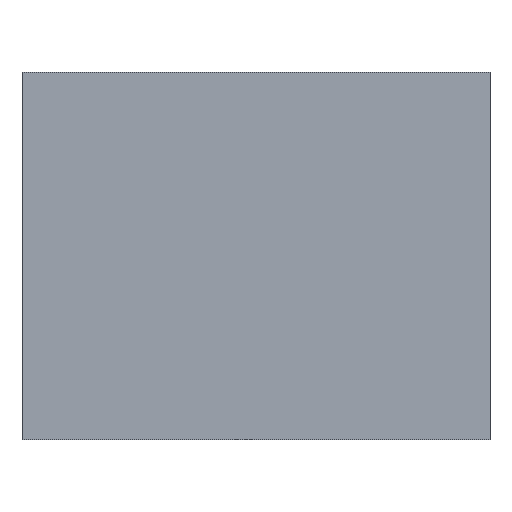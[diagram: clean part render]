
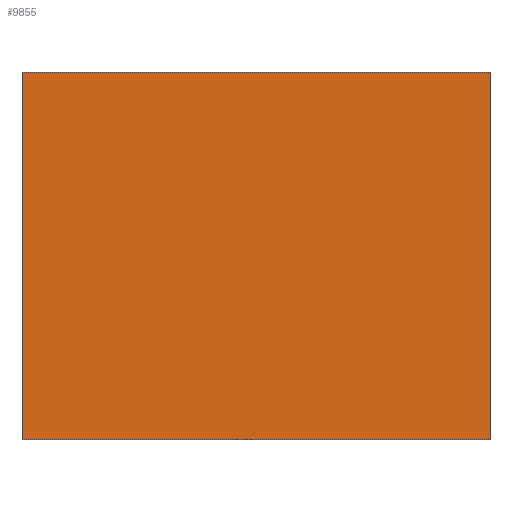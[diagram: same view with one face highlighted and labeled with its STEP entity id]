
A CAD part, front view. The second image highlights one B-rep face of the part: STEP entity #9855.
In plain terms, the highlighted planar face has unit normal (0, -1, 0).
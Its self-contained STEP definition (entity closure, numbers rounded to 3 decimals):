
#1649 = EDGE_CURVE ( 'NONE', #4943, #34766, #49930, .T. ) ;
#2531 = CARTESIAN_POINT ( 'NONE',  ( 9.335, -4.774, -7.45 ) ) ;
#2930 = PLANE ( 'NONE',  #35292 ) ;
#3797 = LINE ( 'NONE', #2531, #13781 ) ;
#4462 = VECTOR ( 'NONE', #10122, 39.37 ) ;
#4943 = VERTEX_POINT ( 'NONE', #6022 ) ;
#6022 = CARTESIAN_POINT ( 'NONE',  ( 9.335, -4.774, 7.226 ) ) ;
#6823 = DIRECTION ( 'NONE',  ( 1., 0., 0. ) ) ;
#7217 = CARTESIAN_POINT ( 'NONE',  ( 28.232, -4.774, -1.83 ) ) ;
#9855 = ADVANCED_FACE ( 'NONE', ( #54994 ), #2930, .F. ) ;
#10122 = DIRECTION ( 'NONE',  ( 0., 0., -1. ) ) ;
#10929 = CARTESIAN_POINT ( 'NONE',  ( -9.335, -4.774, 7.226 ) ) ;
#11485 = DIRECTION ( 'NONE',  ( 0., 0., -1. ) ) ;
#13179 = DIRECTION ( 'NONE',  ( -1., 0., 0. ) ) ;
#13781 = VECTOR ( 'NONE', #6823, 39.37 ) ;
#14759 = ORIENTED_EDGE ( 'NONE', *, *, #1649, .T. ) ;
#15890 = DIRECTION ( 'NONE',  ( 0., 0., 1. ) ) ;
#16062 = CARTESIAN_POINT ( 'NONE',  ( -9.335, -4.774, -7.45 ) ) ;
#16691 = LINE ( 'NONE', #24653, #39364 ) ;
#17244 = VECTOR ( 'NONE', #13179, 39.37 ) ;
#18056 = ORIENTED_EDGE ( 'NONE', *, *, #54843, .T. ) ;
#19339 = EDGE_CURVE ( 'NONE', #34766, #52006, #27126, .T. ) ;
#24653 = CARTESIAN_POINT ( 'NONE',  ( 9.335, -4.774, 7.226 ) ) ;
#27126 = LINE ( 'NONE', #31360, #4462 ) ;
#30138 = CARTESIAN_POINT ( 'NONE',  ( 9.335, -4.774, 7.226 ) ) ;
#31360 = CARTESIAN_POINT ( 'NONE',  ( -9.335, -4.774, 7.226 ) ) ;
#32127 = CARTESIAN_POINT ( 'NONE',  ( 9.335, -4.774, -7.45 ) ) ;
#32475 = EDGE_CURVE ( 'NONE', #33817, #4943, #16691, .T. ) ;
#33817 = VERTEX_POINT ( 'NONE', #32127 ) ;
#34766 = VERTEX_POINT ( 'NONE', #10929 ) ;
#35292 = AXIS2_PLACEMENT_3D ( 'NONE', #7217, #37024, #11485 ) ;
#36185 = ORIENTED_EDGE ( 'NONE', *, *, #19339, .T. ) ;
#37024 = DIRECTION ( 'NONE',  ( 0., 1., 0. ) ) ;
#39153 = ORIENTED_EDGE ( 'NONE', *, *, #32475, .T. ) ;
#39364 = VECTOR ( 'NONE', #15890, 39.37 ) ;
#43575 = EDGE_LOOP ( 'NONE', ( #39153, #14759, #36185, #18056 ) ) ;
#49930 = LINE ( 'NONE', #30138, #17244 ) ;
#52006 = VERTEX_POINT ( 'NONE', #16062 ) ;
#54843 = EDGE_CURVE ( 'NONE', #52006, #33817, #3797, .T. ) ;
#54994 = FACE_OUTER_BOUND ( 'NONE', #43575, .T. ) ;
